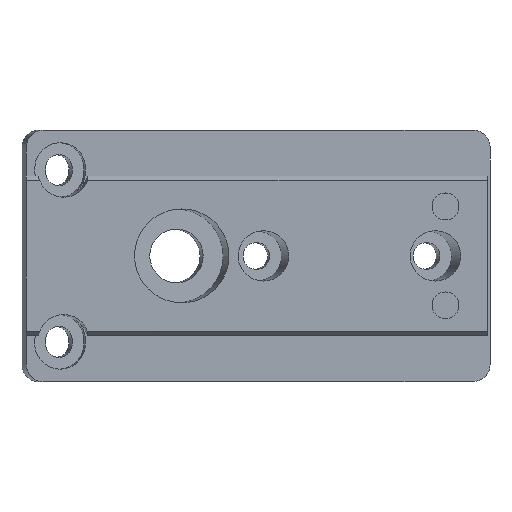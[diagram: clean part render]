
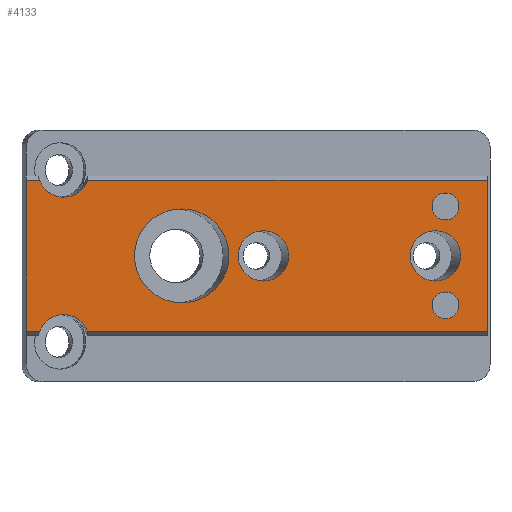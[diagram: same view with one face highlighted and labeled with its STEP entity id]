
A CAD part, top view. The second image highlights one B-rep face of the part: STEP entity #4133.
In plain terms, the highlighted planar face has unit normal (0, 0, 1).
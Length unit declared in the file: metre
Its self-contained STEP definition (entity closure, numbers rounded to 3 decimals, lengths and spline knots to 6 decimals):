
#216=ELLIPSE('',#4401,0.005631,0.0056);
#217=ELLIPSE('',#4402,0.003017,0.003);
#218=ELLIPSE('',#4403,0.003017,0.003);
#219=ELLIPSE('',#4406,0.003017,0.003);
#220=ELLIPSE('',#4407,0.003017,0.003);
#300=CIRCLE('',#4404,0.0016);
#301=CIRCLE('',#4405,0.0016);
#395=ORIENTED_EDGE('',*,*,#1653,.T.);
#396=ORIENTED_EDGE('',*,*,#1654,.T.);
#397=ORIENTED_EDGE('',*,*,#1655,.T.);
#398=ORIENTED_EDGE('',*,*,#1656,.T.);
#399=ORIENTED_EDGE('',*,*,#1657,.T.);
#400=ORIENTED_EDGE('',*,*,#1658,.F.);
#401=ORIENTED_EDGE('',*,*,#1659,.T.);
#402=ORIENTED_EDGE('',*,*,#1660,.F.);
#403=ORIENTED_EDGE('',*,*,#1661,.T.);
#404=ORIENTED_EDGE('',*,*,#1662,.F.);
#405=ORIENTED_EDGE('',*,*,#1663,.T.);
#406=ORIENTED_EDGE('',*,*,#1664,.T.);
#407=ORIENTED_EDGE('',*,*,#1665,.T.);
#1653=EDGE_CURVE('',#2282,#2282,#216,.T.);
#1654=EDGE_CURVE('',#2283,#2283,#217,.T.);
#1655=EDGE_CURVE('',#2284,#2284,#218,.T.);
#1656=EDGE_CURVE('',#2285,#2285,#300,.T.);
#1657=EDGE_CURVE('',#2286,#2286,#301,.T.);
#1658=EDGE_CURVE('',#2287,#2288,#219,.F.);
#1659=EDGE_CURVE('',#2287,#2289,#2687,.T.);
#1660=EDGE_CURVE('',#2290,#2289,#2688,.T.);
#1661=EDGE_CURVE('',#2290,#2291,#2689,.T.);
#1662=EDGE_CURVE('',#2292,#2291,#220,.F.);
#1663=EDGE_CURVE('',#2292,#2293,#2690,.T.);
#1664=EDGE_CURVE('',#2293,#2294,#2691,.T.);
#1665=EDGE_CURVE('',#2294,#2288,#2692,.T.);
#2282=VERTEX_POINT('',#5654);
#2283=VERTEX_POINT('',#5656);
#2284=VERTEX_POINT('',#5658);
#2285=VERTEX_POINT('',#5660);
#2286=VERTEX_POINT('',#5662);
#2287=VERTEX_POINT('',#5664);
#2288=VERTEX_POINT('',#5665);
#2289=VERTEX_POINT('',#5667);
#2290=VERTEX_POINT('',#5669);
#2291=VERTEX_POINT('',#5671);
#2292=VERTEX_POINT('',#5673);
#2293=VERTEX_POINT('',#5675);
#2294=VERTEX_POINT('',#5677);
#2687=LINE('',#5666,#3084);
#2688=LINE('',#5668,#3085);
#2689=LINE('',#5670,#3086);
#2690=LINE('',#5674,#3087);
#2691=LINE('',#5676,#3088);
#2692=LINE('',#5678,#3089);
#3084=VECTOR('',#4723,1.);
#3085=VECTOR('',#4724,1.);
#3086=VECTOR('',#4725,1.);
#3087=VECTOR('',#4728,1.);
#3088=VECTOR('',#4729,1.);
#3089=VECTOR('',#4730,1.);
#3468=EDGE_LOOP('',(#395));
#3469=EDGE_LOOP('',(#396));
#3470=EDGE_LOOP('',(#397));
#3471=EDGE_LOOP('',(#398));
#3472=EDGE_LOOP('',(#399));
#3473=EDGE_LOOP('',(#400,#401,#402,#403,#404,#405,#406,#407));
#3741=FACE_BOUND('',#3468,.T.);
#3742=FACE_BOUND('',#3469,.T.);
#3743=FACE_BOUND('',#3470,.T.);
#3744=FACE_BOUND('',#3471,.T.);
#3745=FACE_BOUND('',#3472,.T.);
#3746=FACE_BOUND('',#3473,.T.);
#4006=PLANE('',#4400);
#4133=ADVANCED_FACE('',(#3741,#3742,#3743,#3744,#3745,#3746),#4006,.F.);
#4400=AXIS2_PLACEMENT_3D('',#5652,#4709,#4710);
#4401=AXIS2_PLACEMENT_3D('',#5653,#4711,#4712);
#4402=AXIS2_PLACEMENT_3D('',#5655,#4713,#4714);
#4403=AXIS2_PLACEMENT_3D('',#5657,#4715,#4716);
#4404=AXIS2_PLACEMENT_3D('',#5659,#4717,#4718);
#4405=AXIS2_PLACEMENT_3D('',#5661,#4719,#4720);
#4406=AXIS2_PLACEMENT_3D('',#5663,#4721,#4722);
#4407=AXIS2_PLACEMENT_3D('',#5672,#4726,#4727);
#4709=DIRECTION('',(0.,0.,-1.));
#4710=DIRECTION('',(-1.,0.,0.));
#4711=DIRECTION('',(0.,0.,-1.));
#4712=DIRECTION('',(-1.,0.,0.));
#4713=DIRECTION('',(0.,0.,-1.));
#4714=DIRECTION('',(-1.,0.,0.));
#4715=DIRECTION('',(0.,0.,-1.));
#4716=DIRECTION('',(-1.,0.,0.));
#4717=DIRECTION('',(0.,0.,-1.));
#4718=DIRECTION('',(-1.,0.,0.));
#4719=DIRECTION('',(0.,0.,-1.));
#4720=DIRECTION('',(-1.,0.,0.));
#4721=DIRECTION('',(0.,0.,-1.));
#4722=DIRECTION('',(-1.,0.,0.));
#4723=DIRECTION('',(1.,0.,0.));
#4724=DIRECTION('',(0.,-1.,0.));
#4725=DIRECTION('',(-1.,0.,0.));
#4726=DIRECTION('',(0.,0.,-1.));
#4727=DIRECTION('',(-1.,0.,0.));
#4728=DIRECTION('',(-1.,0.,0.));
#4729=DIRECTION('',(0.,-1.,0.));
#4730=DIRECTION('',(1.,0.,0.));
#5652=CARTESIAN_POINT('',(0.055,0.,0.0041));
#5653=CARTESIAN_POINT('',(0.01853,0.,0.0041));
#5654=CARTESIAN_POINT('',(0.012899,0.,0.0041));
#5655=CARTESIAN_POINT('',(0.048796,0.,0.0041));
#5656=CARTESIAN_POINT('',(0.045779,0.,0.0041));
#5657=CARTESIAN_POINT('',(0.028284,0.,0.0041));
#5658=CARTESIAN_POINT('',(0.025267,0.,0.0041));
#5659=CARTESIAN_POINT('',(0.05,0.0059,0.0041));
#5660=CARTESIAN_POINT('',(0.0484,0.0059,0.0041));
#5661=CARTESIAN_POINT('',(0.05,-0.0059,0.0041));
#5662=CARTESIAN_POINT('',(0.0484,-0.0059,0.0041));
#5663=CARTESIAN_POINT('',(0.004453,-0.01,0.0041));
#5664=CARTESIAN_POINT('',(0.007299,-0.009004,0.0041));
#5665=CARTESIAN_POINT('',(0.001607,-0.009004,0.0041));
#5666=CARTESIAN_POINT('',(0.055,-0.009004,0.0041));
#5667=CARTESIAN_POINT('',(0.055,-0.009004,0.0041));
#5668=CARTESIAN_POINT('',(0.055,0.,0.0041));
#5669=CARTESIAN_POINT('',(0.055,0.009004,0.0041));
#5670=CARTESIAN_POINT('',(0.,0.009004,0.0041));
#5671=CARTESIAN_POINT('',(0.007299,0.009004,0.0041));
#5672=CARTESIAN_POINT('',(0.004453,0.01,0.0041));
#5673=CARTESIAN_POINT('',(0.001607,0.009004,0.0041));
#5674=CARTESIAN_POINT('',(0.,0.009004,0.0041));
#5675=CARTESIAN_POINT('',(0.,0.009004,0.0041));
#5676=CARTESIAN_POINT('',(0.,0.,0.0041));
#5677=CARTESIAN_POINT('',(0.,-0.009004,0.0041));
#5678=CARTESIAN_POINT('',(0.055,-0.009004,0.0041));
